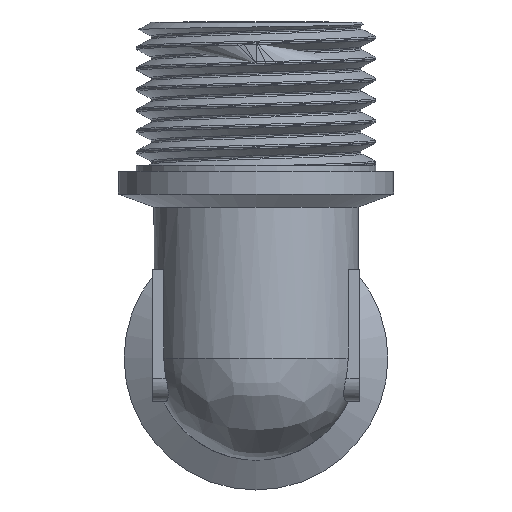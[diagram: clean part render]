
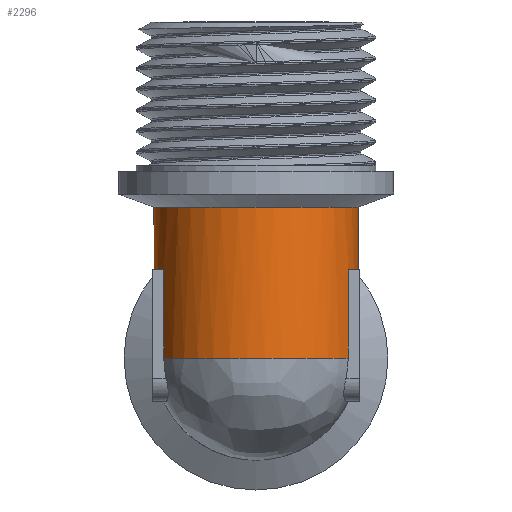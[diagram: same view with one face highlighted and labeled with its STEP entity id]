
A CAD part, front view. The second image highlights one B-rep face of the part: STEP entity #2296.
In plain terms, the highlighted cylindrical face has radius 8.9 mm (diameter 17.8 mm), a full revolution.
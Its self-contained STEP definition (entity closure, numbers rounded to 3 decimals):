
#36=ELLIPSE('',#2471,12.587,8.9);
#193=CYLINDRICAL_SURFACE('',#2468,8.9);
#230=FACE_OUTER_BOUND('',#359,.T.);
#359=EDGE_LOOP('',(#1632,#1633,#1634,#1635,#1636,#1637,#1638,#1639,#1640,
#1641,#1642,#1643,#1644,#1645,#1646,#1647));
#499=LINE('',#3479,#666);
#500=LINE('',#3483,#667);
#501=LINE('',#3491,#668);
#502=LINE('',#3495,#669);
#503=LINE('',#3499,#670);
#666=VECTOR('',#2747,8.9);
#667=VECTOR('',#2750,10.);
#668=VECTOR('',#2757,10.);
#669=VECTOR('',#2760,10.);
#670=VECTOR('',#2763,10.);
#848=CIRCLE('',#2465,8.9);
#849=CIRCLE('',#2466,8.9);
#850=CIRCLE('',#2467,8.9);
#851=CIRCLE('',#2469,8.9);
#852=CIRCLE('',#2470,8.9);
#853=CIRCLE('',#2472,8.9);
#854=CIRCLE('',#2473,8.9);
#855=CIRCLE('',#2474,8.9);
#856=CIRCLE('',#2475,8.9);
#978=VERTEX_POINT('',#3470);
#979=VERTEX_POINT('',#3471);
#980=VERTEX_POINT('',#3473);
#981=VERTEX_POINT('',#3478);
#982=VERTEX_POINT('',#3480);
#983=VERTEX_POINT('',#3482);
#984=VERTEX_POINT('',#3484);
#985=VERTEX_POINT('',#3486);
#986=VERTEX_POINT('',#3488);
#987=VERTEX_POINT('',#3490);
#988=VERTEX_POINT('',#3492);
#989=VERTEX_POINT('',#3494);
#990=VERTEX_POINT('',#3496);
#991=VERTEX_POINT('',#3498);
#1236=EDGE_CURVE('',#978,#979,#848,.T.);
#1237=EDGE_CURVE('',#980,#978,#849,.T.);
#1239=EDGE_CURVE('',#979,#980,#850,.T.);
#1240=EDGE_CURVE('',#979,#981,#499,.T.);
#1241=EDGE_CURVE('',#981,#982,#851,.T.);
#1242=EDGE_CURVE('',#982,#983,#500,.T.);
#1243=EDGE_CURVE('',#983,#984,#852,.T.);
#1244=EDGE_CURVE('',#985,#984,#36,.T.);
#1245=EDGE_CURVE('',#985,#986,#853,.T.);
#1246=EDGE_CURVE('',#986,#987,#501,.T.);
#1247=EDGE_CURVE('',#987,#988,#854,.T.);
#1248=EDGE_CURVE('',#988,#989,#502,.T.);
#1249=EDGE_CURVE('',#989,#990,#855,.T.);
#1250=EDGE_CURVE('',#990,#991,#503,.T.);
#1251=EDGE_CURVE('',#991,#981,#856,.T.);
#1632=ORIENTED_EDGE('',*,*,#1236,.T.);
#1633=ORIENTED_EDGE('',*,*,#1240,.T.);
#1634=ORIENTED_EDGE('',*,*,#1241,.T.);
#1635=ORIENTED_EDGE('',*,*,#1242,.T.);
#1636=ORIENTED_EDGE('',*,*,#1243,.T.);
#1637=ORIENTED_EDGE('',*,*,#1244,.F.);
#1638=ORIENTED_EDGE('',*,*,#1245,.T.);
#1639=ORIENTED_EDGE('',*,*,#1246,.T.);
#1640=ORIENTED_EDGE('',*,*,#1247,.T.);
#1641=ORIENTED_EDGE('',*,*,#1248,.T.);
#1642=ORIENTED_EDGE('',*,*,#1249,.T.);
#1643=ORIENTED_EDGE('',*,*,#1250,.T.);
#1644=ORIENTED_EDGE('',*,*,#1251,.T.);
#1645=ORIENTED_EDGE('',*,*,#1240,.F.);
#1646=ORIENTED_EDGE('',*,*,#1239,.T.);
#1647=ORIENTED_EDGE('',*,*,#1237,.T.);
#2296=ADVANCED_FACE('',(#230),#193,.T.);
#2465=AXIS2_PLACEMENT_3D('',#3472,#2738,#2739);
#2466=AXIS2_PLACEMENT_3D('',#3474,#2740,#2741);
#2467=AXIS2_PLACEMENT_3D('',#3476,#2743,#2744);
#2468=AXIS2_PLACEMENT_3D('',#3477,#2745,#2746);
#2469=AXIS2_PLACEMENT_3D('',#3481,#2748,#2749);
#2470=AXIS2_PLACEMENT_3D('',#3485,#2751,#2752);
#2471=AXIS2_PLACEMENT_3D('',#3487,#2753,#2754);
#2472=AXIS2_PLACEMENT_3D('',#3489,#2755,#2756);
#2473=AXIS2_PLACEMENT_3D('',#3493,#2758,#2759);
#2474=AXIS2_PLACEMENT_3D('',#3497,#2761,#2762);
#2475=AXIS2_PLACEMENT_3D('',#3500,#2764,#2765);
#2738=DIRECTION('center_axis',(0.,0.,-1.));
#2739=DIRECTION('ref_axis',(-1.,0.,0.));
#2740=DIRECTION('center_axis',(0.,0.,-1.));
#2741=DIRECTION('ref_axis',(-1.,0.,0.));
#2743=DIRECTION('center_axis',(0.,0.,-1.));
#2744=DIRECTION('ref_axis',(-1.,0.,0.));
#2745=DIRECTION('center_axis',(0.,0.,1.));
#2746=DIRECTION('ref_axis',(-1.,0.,0.));
#2747=DIRECTION('',(0.,0.,-1.));
#2748=DIRECTION('center_axis',(0.,0.,1.));
#2749=DIRECTION('ref_axis',(-1.,0.,0.));
#2750=DIRECTION('',(0.,0.,-1.));
#2751=DIRECTION('center_axis',(0.,0.,1.));
#2752=DIRECTION('ref_axis',(-1.,0.,0.));
#2753=DIRECTION('center_axis',(0.,0.707,-0.707));
#2754=DIRECTION('ref_axis',(0.,-0.707,-0.707));
#2755=DIRECTION('center_axis',(0.,0.,1.));
#2756=DIRECTION('ref_axis',(-1.,0.,0.));
#2757=DIRECTION('',(0.,0.,1.));
#2758=DIRECTION('center_axis',(0.,0.,1.));
#2759=DIRECTION('ref_axis',(-1.,0.,0.));
#2760=DIRECTION('',(0.,0.,-1.));
#2761=DIRECTION('center_axis',(0.,0.,1.));
#2762=DIRECTION('ref_axis',(-1.,0.,0.));
#2763=DIRECTION('',(0.,0.,1.));
#2764=DIRECTION('center_axis',(0.,0.,1.));
#2765=DIRECTION('ref_axis',(-1.,0.,0.));
#3470=CARTESIAN_POINT('',(0.,-34.6,13.172));
#3471=CARTESIAN_POINT('',(8.9,-43.5,13.172));
#3472=CARTESIAN_POINT('Origin',(0.,-43.5,13.172));
#3473=CARTESIAN_POINT('',(0.,-52.4,13.172));
#3474=CARTESIAN_POINT('Origin',(0.,-43.5,13.172));
#3476=CARTESIAN_POINT('Origin',(0.,-43.5,13.172));
#3477=CARTESIAN_POINT('Origin',(0.,-43.5,0.));
#3478=CARTESIAN_POINT('',(8.9,-43.5,7.738));
#3479=CARTESIAN_POINT('',(8.9,-43.5,0.));
#3480=CARTESIAN_POINT('',(8.108,-39.829,7.738));
#3481=CARTESIAN_POINT('Origin',(0.,-43.5,7.738));
#3482=CARTESIAN_POINT('',(8.108,-39.829,3.738));
#3483=CARTESIAN_POINT('',(8.108,-39.829,0.));
#3484=CARTESIAN_POINT('',(8.077,-39.762,3.738));
#3485=CARTESIAN_POINT('Origin',(0.,-43.5,3.738));
#3486=CARTESIAN_POINT('',(-8.077,-39.762,3.738));
#3487=CARTESIAN_POINT('Origin',(0.,-43.5,0.));
#3488=CARTESIAN_POINT('',(-8.108,-39.829,3.738));
#3489=CARTESIAN_POINT('Origin',(0.,-43.5,3.738));
#3490=CARTESIAN_POINT('',(-8.108,-39.829,7.738));
#3491=CARTESIAN_POINT('',(-8.108,-39.829,0.));
#3492=CARTESIAN_POINT('',(-8.034,-47.329,7.738));
#3493=CARTESIAN_POINT('Origin',(0.,-43.5,7.738));
#3494=CARTESIAN_POINT('',(-8.034,-47.329,0.));
#3495=CARTESIAN_POINT('',(-8.034,-47.329,0.));
#3496=CARTESIAN_POINT('',(8.034,-47.329,0.));
#3497=CARTESIAN_POINT('Origin',(0.,-43.5,0.));
#3498=CARTESIAN_POINT('',(8.034,-47.329,7.738));
#3499=CARTESIAN_POINT('',(8.034,-47.329,0.));
#3500=CARTESIAN_POINT('Origin',(0.,-43.5,7.738));
